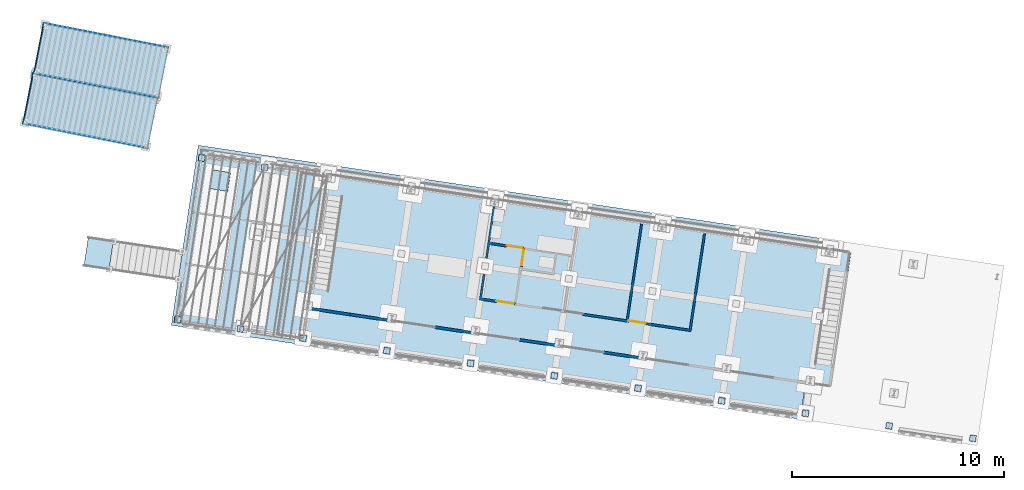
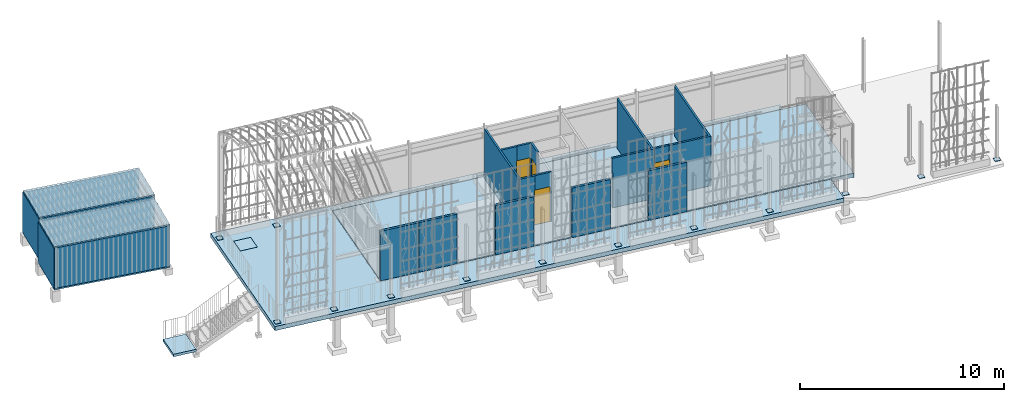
# One storey, part 134 of 142: 20 plates, 8 walls, 7 slabs, 4 doors, 7 openings, 5 elements without a shape of their own.
"""IFC4 building model written with IfcOpenShell, lengths in metres."""

from ifc_helpers import new_model, si_unit, direction, frame, origin_with_axes, place, context, subcontext, project, spatial, polyline, outline, extrude, material, layer, layer_set, constituent, constituent_set, element, fill, aggregate, save


model = new_model("IFC4")

# Units and contexts
model_context = context("Model", 3, precision=1e-05, world=origin_with_axes(), true_north=direction((0.0, 1.0)))
body_context = subcontext(model_context, "Body", "Model", "MODEL_VIEW")
ifc_project = project(units=[si_unit("LENGTHUNIT", "METRE"), si_unit("AREAUNIT", "SQUARE_METRE"), si_unit("VOLUMEUNIT", "CUBIC_METRE")], contexts=[model_context])

# Site, building, storey
site_placement = place(None, origin_with_axes())
site = spatial("IfcSite", under=ifc_project, at=site_placement, Name="Lares · Rua das Mercês · artigo 4771")
building_placement = place(site_placement, frame((15.0, 9.7, 14.65), z_axis=(0.0, 0.0, 1.0), x_axis=(0.989015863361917, -0.147809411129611, 0.0)))
building = spatial("IfcBuilding", under=site, at=building_placement, Name="Casa Sobreposta")
storey_placement = place(building_placement, origin_with_axes())
storey = spatial("IfcBuildingStorey", under=building, at=storey_placement, Name="00 · Habitação e estacionamento", Elevation=14.65)

# Assembly, slabs, opening, plate
assembly_1_placement = place(storey_placement, origin_with_axes())
assembly_1 = element("IfcElementAssembly", 1, at=assembly_1_placement, inside=storey, Name="Pódio · terraço, casa térrea e cisterna", ObjectType="CISTERN_PODIUM", PredefinedType="USERDEFINED")
ifc_material_1 = material(Name="Betão armado / Stahlbeton", Category="concrete")
slab_1_placement = place(assembly_1_placement, frame((0.0, 0.0, -0.25), z_axis=(0.0, 0.0, 1.0), x_axis=(1.0, 0.0, 0.0)))
slab_1 = element("IfcSlab", 2, at=slab_1_placement, material=ifc_material_1, Name="Pódio · laje da casa 250 mm", PredefinedType="FLOOR", context=body_context, shape_type="SweptSolid", body=[
    extrude(outline(polyline([(25.01, 0.0), (25.01, 6.4), (0.0, 6.4), (0.0, 0.0), (25.01, 0.0)])), origin_with_axes(), (0.0, 0.0, 1.0), 0.25),
])
slab_2_placement = place(assembly_1_placement, frame((0.0, 0.0, -0.29), z_axis=(0.0, 0.0, 1.0), x_axis=(1.0, 0.0, 0.0)))
slab_2 = element("IfcSlab", 3, at=slab_2_placement, material=ifc_material_1, Name="Pódio · terraço e faixa de proteção sul", PredefinedType="FLOOR", context=body_context, shape_type="SweptSolid", body=[
    extrude(outline(polyline([(-6.25, 6.85), (23.8, 6.85), (23.8, 6.4), (0.0, 6.4), (0.0, 0.0), (23.8, 0.0), (23.8, -1.75), (-6.25, -1.75), (-6.25, 6.85)])), origin_with_axes(), (0.0, 0.0, 1.0), 0.25),
])
opening_1_placement = place(slab_2_placement, frame((0.0, 0.0, -0.06), z_axis=(0.0, 0.0, 1.0), x_axis=(1.0, 0.0, 0.0)))
element("IfcOpeningElement", 4, at=opening_1_placement, cuts=slab_2, Name="Cisterna · abertura de inspeção", PredefinedType="OPENING", context=body_context, shape_type="SweptSolid", body=[
    extrude(outline(polyline([(-4.55, 4.9), (-4.55, 5.8), (-5.45, 5.8), (-5.45, 4.9), (-4.55, 4.9)])), origin_with_axes(), (0.0, 0.0, 1.0), 0.4),
])
ifc_material_2 = material(Name="Aço galvanizado / Stahl verzinkt", Category="steel")
plate_1_placement = place(assembly_1_placement, frame((0.0, 0.0, -0.085), z_axis=(0.0, 0.0, 1.0), x_axis=(1.0, 0.0, 0.0)))
plate_1 = element("IfcPlate", 5, at=plate_1_placement, material=ifc_material_2, Name="Cisterna · tampa estanque de inspeção", PredefinedType="SHEET", context=body_context, shape_type="SweptSolid", body=[
    extrude(outline(polyline([(-4.55, 4.9), (-4.55, 5.8), (-5.45, 5.8), (-5.45, 4.9), (-4.55, 4.9)])), origin_with_axes(), (0.0, 0.0, 1.0), 0.045),
])
aggregate(assembly_1, [slab_1, slab_2, plate_1])

# Stair, slab
stair_placement = place(storey_placement, origin_with_axes())
stair = element("IfcStair", 6, at=stair_placement, inside=storey, Name="Jardim · escada pela fachada poente", PredefinedType="STRAIGHT_RUN_STAIR")
slab_3_placement = place(stair_placement, frame((0.0, 0.0, -2.1), z_axis=(0.0, 0.0, 1.0), x_axis=(1.0, 0.0, 0.0)))
slab_3 = element("IfcSlab", 7, at=slab_3_placement, material=ifc_material_1, Name="Jardim · patamar poente", PredefinedType="LANDING", context=body_context, shape_type="SweptSolid", body=[
    extrude(outline(polyline([(-9.55, 0.4), (-9.55, 1.8), (-10.75, 1.8), (-10.75, 0.4), (-9.55, 0.4)])), origin_with_axes(), (0.0, 0.0, 1.0), 0.15),
])
aggregate(stair, [slab_3])

# Assembly, plates
assembly_2_placement = place(storey_placement, origin_with_axes())
assembly_2 = element("IfcElementAssembly", 8, at=assembly_2_placement, inside=storey, Name="Pérgola · prolongamento da estufa 6 m", ObjectType="PERGOLA_GREENHOUSE_EXTENSION", PredefinedType="USERDEFINED")
plate_2_placement = place(assembly_2_placement, frame((0.0, 0.0, -0.04), z_axis=(0.0, 0.0, 1.0), x_axis=(1.0, 0.0, 0.0)))
plate_2 = element("IfcPlate", 9, at=plate_2_placement, material=ifc_material_2, Name="Pérgola · chapa de ancoragem", PredefinedType="SHEET", context=body_context, shape_type="SweptSolid", body=[
    extrude(outline(polyline([(-5.85, -1.59), (-5.85, -1.29), (-6.15, -1.29), (-6.15, -1.59), (-5.85, -1.59)])), origin_with_axes(), (0.0, 0.0, 1.0), 0.025),
])
plate_3_placement = place(assembly_2_placement, frame((0.0, 0.0, -0.04), z_axis=(0.0, 0.0, 1.0), x_axis=(1.0, 0.0, 0.0)))
plate_3 = element("IfcPlate", 10, at=plate_3_placement, material=ifc_material_2, Name="Pérgola · chapa de ancoragem", PredefinedType="SHEET", context=body_context, shape_type="SweptSolid", body=[
    extrude(outline(polyline([(-5.85, 6.13), (-5.85, 6.43), (-6.15, 6.43), (-6.15, 6.13), (-5.85, 6.13)])), origin_with_axes(), (0.0, 0.0, 1.0), 0.025),
])
plate_4_placement = place(assembly_2_placement, frame((0.0, 0.0, -0.04), z_axis=(0.0, 0.0, 1.0), x_axis=(1.0, 0.0, 0.0)))
plate_4 = element("IfcPlate", 11, at=plate_4_placement, material=ifc_material_2, Name="Pérgola · chapa de ancoragem", PredefinedType="SHEET", context=body_context, shape_type="SweptSolid", body=[
    extrude(outline(polyline([(-2.85, -1.59), (-2.85, -1.29), (-3.15, -1.29), (-3.15, -1.59), (-2.85, -1.59)])), origin_with_axes(), (0.0, 0.0, 1.0), 0.025),
])
plate_5_placement = place(assembly_2_placement, frame((0.0, 0.0, -0.04), z_axis=(0.0, 0.0, 1.0), x_axis=(1.0, 0.0, 0.0)))
plate_5 = element("IfcPlate", 12, at=plate_5_placement, material=ifc_material_2, Name="Pérgola · chapa de ancoragem", PredefinedType="SHEET", context=body_context, shape_type="SweptSolid", body=[
    extrude(outline(polyline([(-2.85, 6.13), (-2.85, 6.43), (-3.15, 6.43), (-3.15, 6.13), (-2.85, 6.13)])), origin_with_axes(), (0.0, 0.0, 1.0), 0.025),
])
aggregate(assembly_2, [plate_2, plate_3, plate_4, plate_5])

# Plates
plate_6_placement = place(storey_placement, frame((0.0, 0.0, -0.04), z_axis=(0.0, 0.0, 1.0), x_axis=(1.0, 0.0, 0.0)))
element("IfcPlate", 13, at=plate_6_placement, inside=storey, material=ifc_material_2, Name="Projeção estufa · chapa de ancoragem", PredefinedType="SHEET", context=body_context, shape_type="SweptSolid", body=[
    extrude(outline(polyline([(0.15, -1.59), (0.15, -1.29), (-0.15, -1.29), (-0.15, -1.59), (0.15, -1.59)])), origin_with_axes(), (0.0, 0.0, 1.0), 0.025),
])
plate_7_placement = place(storey_placement, frame((0.0, 0.0, -0.04), z_axis=(0.0, 0.0, 1.0), x_axis=(1.0, 0.0, 0.0)))
element("IfcPlate", 14, at=plate_7_placement, inside=storey, material=ifc_material_2, Name="Projeção estufa · chapa de ancoragem", PredefinedType="SHEET", context=body_context, shape_type="SweptSolid", body=[
    extrude(outline(polyline([(4.15, -1.59), (4.15, -1.29), (3.85, -1.29), (3.85, -1.59), (4.15, -1.59)])), origin_with_axes(), (0.0, 0.0, 1.0), 0.025),
])
plate_8_placement = place(storey_placement, frame((0.0, 0.0, -0.04), z_axis=(0.0, 0.0, 1.0), x_axis=(1.0, 0.0, 0.0)))
element("IfcPlate", 15, at=plate_8_placement, inside=storey, material=ifc_material_2, Name="Projeção estufa · chapa de ancoragem", PredefinedType="SHEET", context=body_context, shape_type="SweptSolid", body=[
    extrude(outline(polyline([(8.15, -1.59), (8.15, -1.29), (7.85, -1.29), (7.85, -1.59), (8.15, -1.59)])), origin_with_axes(), (0.0, 0.0, 1.0), 0.025),
])
plate_9_placement = place(storey_placement, frame((0.0, 0.0, -0.04), z_axis=(0.0, 0.0, 1.0), x_axis=(1.0, 0.0, 0.0)))
element("IfcPlate", 16, at=plate_9_placement, inside=storey, material=ifc_material_2, Name="Projeção estufa · chapa de ancoragem", PredefinedType="SHEET", context=body_context, shape_type="SweptSolid", body=[
    extrude(outline(polyline([(12.15, -1.59), (12.15, -1.29), (11.85, -1.29), (11.85, -1.59), (12.15, -1.59)])), origin_with_axes(), (0.0, 0.0, 1.0), 0.025),
])
plate_10_placement = place(storey_placement, frame((0.0, 0.0, -0.04), z_axis=(0.0, 0.0, 1.0), x_axis=(1.0, 0.0, 0.0)))
element("IfcPlate", 17, at=plate_10_placement, inside=storey, material=ifc_material_2, Name="Projeção estufa · chapa de ancoragem", PredefinedType="SHEET", context=body_context, shape_type="SweptSolid", body=[
    extrude(outline(polyline([(16.15, -1.59), (16.15, -1.29), (15.85, -1.29), (15.85, -1.59), (16.15, -1.59)])), origin_with_axes(), (0.0, 0.0, 1.0), 0.025),
])
plate_11_placement = place(storey_placement, frame((0.0, 0.0, -0.04), z_axis=(0.0, 0.0, 1.0), x_axis=(1.0, 0.0, 0.0)))
element("IfcPlate", 18, at=plate_11_placement, inside=storey, material=ifc_material_2, Name="Projeção estufa · chapa de ancoragem", PredefinedType="SHEET", context=body_context, shape_type="SweptSolid", body=[
    extrude(outline(polyline([(20.15, -1.59), (20.15, -1.29), (19.85, -1.29), (19.85, -1.59), (20.15, -1.59)])), origin_with_axes(), (0.0, 0.0, 1.0), 0.025),
])
plate_12_placement = place(storey_placement, frame((0.0, 0.0, -0.04), z_axis=(0.0, 0.0, 1.0), x_axis=(1.0, 0.0, 0.0)))
element("IfcPlate", 19, at=plate_12_placement, inside=storey, material=ifc_material_2, Name="Projeção estufa · chapa de ancoragem", PredefinedType="SHEET", context=body_context, shape_type="SweptSolid", body=[
    extrude(outline(polyline([(24.15, -1.59), (24.15, -1.29), (23.85, -1.29), (23.85, -1.59), (24.15, -1.59)])), origin_with_axes(), (0.0, 0.0, 1.0), 0.025),
])
plate_13_placement = place(storey_placement, frame((0.0, 0.0, -0.04), z_axis=(0.0, 0.0, 1.0), x_axis=(1.0, 0.0, 0.0)))
element("IfcPlate", 20, at=plate_13_placement, inside=storey, material=ifc_material_2, Name="Projeção estufa · chapa de ancoragem", PredefinedType="SHEET", context=body_context, shape_type="SweptSolid", body=[
    extrude(outline(polyline([(28.15, -1.59), (28.15, -1.29), (27.85, -1.29), (27.85, -1.59), (28.15, -1.59)])), origin_with_axes(), (0.0, 0.0, 1.0), 0.025),
])
plate_14_placement = place(storey_placement, frame((0.0, 0.0, -0.04), z_axis=(0.0, 0.0, 1.0), x_axis=(1.0, 0.0, 0.0)))
element("IfcPlate", 21, at=plate_14_placement, inside=storey, material=ifc_material_2, Name="Projeção estufa · chapa de ancoragem", PredefinedType="SHEET", context=body_context, shape_type="SweptSolid", body=[
    extrude(outline(polyline([(32.15, -1.59), (32.15, -1.29), (31.85, -1.29), (31.85, -1.59), (32.15, -1.59)])), origin_with_axes(), (0.0, 0.0, 1.0), 0.025),
])

# Assembly, slabs, plates
assembly_3_placement = place(storey_placement, frame((-14.4335953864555, 9.04888612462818, 0.0), z_axis=(0.0, 0.0, 1.0), x_axis=(0.999032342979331, -0.0439815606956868, 0.0)))
assembly_3 = element("IfcElementAssembly", 22, at=assembly_3_placement, inside=storey, Name="Contentor existente 1 · 6 m", ObjectType="EXISTING_SHIPPING_CONTAINER", PredefinedType="USERDEFINED")
ifc_material_3 = material(Name="Contentor · pintura 1", Category="steel")
slab_4_placement = place(assembly_3_placement, frame((0.0, 0.0, -1.01314181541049), z_axis=(0.0, 0.0, 1.0), x_axis=(1.0, 0.0, 0.0)))
slab_4 = element("IfcSlab", 23, at=slab_4_placement, material=ifc_material_3, Name="Contentor · piso ou teto", PredefinedType="FLOOR", context=body_context, shape_type="SweptSolid", body=[
    extrude(outline(polyline([(6.0, 0.0), (6.0, 2.44), (0.0, 2.44), (0.0, 0.0), (6.0, 0.0)])), origin_with_axes(), (0.0, 0.0, 1.0), 0.08),
])
slab_5_placement = place(assembly_3_placement, frame((0.0, 0.0, 1.49685818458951), z_axis=(0.0, 0.0, 1.0), x_axis=(1.0, 0.0, 0.0)))
slab_5 = element("IfcSlab", 24, at=slab_5_placement, material=ifc_material_3, Name="Contentor · piso ou teto", PredefinedType="FLOOR", context=body_context, shape_type="SweptSolid", body=[
    extrude(outline(polyline([(6.0, 0.0), (6.0, 2.44), (0.0, 2.44), (0.0, 0.0), (6.0, 0.0)])), origin_with_axes(), (0.0, 0.0, 1.0), 0.08),
])
plate_15_placement = place(assembly_3_placement, frame((0.0, 0.0, -0.933141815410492), z_axis=(0.0, 0.0, 1.0), x_axis=(1.0, 0.0, 0.0)))
plate_15 = element("IfcPlate", 25, at=plate_15_placement, material=ifc_material_3, Name="Contentor · chapa lateral", context=body_context, shape_type="SweptSolid", body=[
    extrude(outline(polyline([(6.0, 0.0325), (6.0, 0.0075), (0.0, 0.0075), (0.0, 0.0325), (6.0, 0.0325)])), origin_with_axes(), (0.0, 0.0, 1.0), 2.43),
])
plate_16_placement = place(assembly_3_placement, frame((0.0, 0.0, -0.933141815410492), z_axis=(0.0, 0.0, 1.0), x_axis=(1.0, 0.0, 0.0)))
plate_16 = element("IfcPlate", 26, at=plate_16_placement, material=ifc_material_3, Name="Contentor · chapa lateral", context=body_context, shape_type="SweptSolid", body=[
    extrude(outline(polyline([(6.0, 2.4325), (6.0, 2.4075), (0.0, 2.4075), (0.0, 2.4325), (6.0, 2.4325)])), origin_with_axes(), (0.0, 0.0, 1.0), 2.43),
])
plate_17_placement = place(assembly_3_placement, frame((0.0, 0.0, -0.933141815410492), z_axis=(0.0, 0.0, 1.0), x_axis=(1.0, 0.0, 0.0)))
plate_17 = element("IfcPlate", 27, at=plate_17_placement, material=ifc_material_3, Name="Contentor · chapa de fundo", context=body_context, shape_type="SweptSolid", body=[
    extrude(outline(polyline([(-0.025, 2.44), (0.025, 2.44), (0.025, 0.0), (-0.025, 0.0), (-0.025, 2.44)])), origin_with_axes(), (0.0, 0.0, 1.0), 2.43),
])
aggregate(assembly_3, [slab_4, slab_5, plate_15, plate_16, plate_17])

assembly_4_placement = place(storey_placement, frame((-14.5932944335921, 6.63122214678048, 0.0), z_axis=(0.0, 0.0, 1.0), x_axis=(0.998832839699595, -0.0483007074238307, 0.0)))
assembly_4 = element("IfcElementAssembly", 28, at=assembly_4_placement, inside=storey, Name="Contentor existente 2 · 6 m", ObjectType="EXISTING_SHIPPING_CONTAINER", PredefinedType="USERDEFINED")
ifc_material_4 = material(Name="Contentor · pintura 2", Category="steel")
slab_6_placement = place(assembly_4_placement, frame((0.0, 0.0, -1.16875169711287), z_axis=(0.0, 0.0, 1.0), x_axis=(1.0, 0.0, 0.0)))
slab_6 = element("IfcSlab", 29, at=slab_6_placement, material=ifc_material_4, Name="Contentor · piso ou teto", PredefinedType="FLOOR", context=body_context, shape_type="SweptSolid", body=[
    extrude(outline(polyline([(6.0, 0.0), (6.0, 2.44), (0.0, 2.44), (0.0, 0.0), (6.0, 0.0)])), origin_with_axes(), (0.0, 0.0, 1.0), 0.08),
])
slab_7_placement = place(assembly_4_placement, frame((0.0, 0.0, 1.34124830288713), z_axis=(0.0, 0.0, 1.0), x_axis=(1.0, 0.0, 0.0)))
slab_7 = element("IfcSlab", 30, at=slab_7_placement, material=ifc_material_4, Name="Contentor · piso ou teto", PredefinedType="FLOOR", context=body_context, shape_type="SweptSolid", body=[
    extrude(outline(polyline([(6.0, 0.0), (6.0, 2.44), (0.0, 2.44), (0.0, 0.0), (6.0, 0.0)])), origin_with_axes(), (0.0, 0.0, 1.0), 0.08),
])
plate_18_placement = place(assembly_4_placement, frame((0.0, 0.0, -1.08875169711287), z_axis=(0.0, 0.0, 1.0), x_axis=(1.0, 0.0, 0.0)))
plate_18 = element("IfcPlate", 31, at=plate_18_placement, material=ifc_material_4, Name="Contentor · chapa lateral", context=body_context, shape_type="SweptSolid", body=[
    extrude(outline(polyline([(6.0, 0.0325), (6.0, 0.0075), (0.0, 0.0075), (0.0, 0.0325), (6.0, 0.0325)])), origin_with_axes(), (0.0, 0.0, 1.0), 2.43),
])
plate_19_placement = place(assembly_4_placement, frame((0.0, 0.0, -1.08875169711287), z_axis=(0.0, 0.0, 1.0), x_axis=(1.0, 0.0, 0.0)))
plate_19 = element("IfcPlate", 32, at=plate_19_placement, material=ifc_material_4, Name="Contentor · chapa lateral", context=body_context, shape_type="SweptSolid", body=[
    extrude(outline(polyline([(6.0, 2.4325), (6.0, 2.4075), (0.0, 2.4075), (0.0, 2.4325), (6.0, 2.4325)])), origin_with_axes(), (0.0, 0.0, 1.0), 2.43),
])
plate_20_placement = place(assembly_4_placement, frame((0.0, 0.0, -1.08875169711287), z_axis=(0.0, 0.0, 1.0), x_axis=(1.0, 0.0, 0.0)))
plate_20 = element("IfcPlate", 33, at=plate_20_placement, material=ifc_material_4, Name="Contentor · chapa de fundo", context=body_context, shape_type="SweptSolid", body=[
    extrude(outline(polyline([(-0.025, 2.44), (0.025, 2.44), (0.025, 0.0), (-0.025, 0.0), (-0.025, 2.44)])), origin_with_axes(), (0.0, 0.0, 1.0), 2.43),
])
aggregate(assembly_4, [slab_6, slab_7, plate_18, plate_19, plate_20])

# Wall, openings, doors
ifc_material_5 = material(Name="OSB", Category="wood")
ifc_constituent_1 = constituent(ifc_material_5, Name="osb")
ifc_material_6 = material(Name="Lã mineral / Mineralwolle 2", Category="mineral wool")
ifc_constituent_2 = constituent(ifc_material_6, Name="wool")
ifc_constituent_set_1 = constituent_set(constituents=[ifc_constituent_1, ifc_constituent_2], Name="OSB22 / lã mineral / OSB22")
wall_1_placement = place(storey_placement, origin_with_axes())
wall_1 = element("IfcWall", 34, at=wall_1_placement, inside=storey, material=ifc_constituent_set_1, Name="Divisória 1 · OSB 22 mm nas duas faces", context=body_context, shape_type="SweptSolid", body=[
    extrude(outline(polyline([(8.05999999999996, 6.27299999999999), (8.05999999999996, 4.35299999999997), (8.80454037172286, 4.35299999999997), (8.80454322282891, 4.37255471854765), (9.67462900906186, 4.37242785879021), (9.67461809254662, 4.29755537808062), (9.74955631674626, 4.29756574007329), (9.74967661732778, 3.42754853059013), (9.63967661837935, 3.4275333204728), (9.63956117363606, 4.26243297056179), (8.90999999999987, 4.26253934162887), (8.90999999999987, 4.24299999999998), (8.05999999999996, 4.24299999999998), (8.05999999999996, 1.68999999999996), (8.70456930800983, 1.68999999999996), (8.70457262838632, 1.71008556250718), (9.6746647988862, 1.70992519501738), (9.67464661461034, 1.59992519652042), (8.80999999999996, 1.60006813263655), (8.80999999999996, 1.57999999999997), (7.96000000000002, 1.57999999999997), (7.96000000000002, 6.27299999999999), (8.05999999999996, 6.27299999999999)]), holes=[polyline([(7.98200000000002, 1.60199999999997), (8.78799999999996, 1.60199999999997), (8.78799999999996, 1.62207176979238), (9.65265025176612, 1.62192883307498), (9.65266116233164, 1.68792883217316), (8.72656899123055, 1.68808192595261), (8.72656567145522, 1.66799999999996), (8.03799999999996, 1.66799999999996), (8.03799999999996, 4.26499999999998), (8.88799999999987, 4.26499999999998), (8.88799999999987, 4.28454254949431), (9.65261617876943, 4.28443106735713), (9.65262580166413, 4.35043106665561), (8.8265400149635, 4.35055151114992), (8.82653716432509, 4.33099999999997), (8.03799999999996, 4.33099999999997), (8.03799999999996, 6.25099999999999), (7.98200000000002, 6.25099999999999), (7.98200000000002, 1.60199999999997)]), polyline([(9.66167357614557, 3.44953636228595), (9.72767357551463, 3.44954548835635), (9.72755935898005, 4.27556269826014), (9.661559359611, 4.27555357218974), (9.66167357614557, 3.44953636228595)])]), origin_with_axes(), (0.0, 0.0, 1.0), 2.968),
    extrude(outline(polyline([(7.98200000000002, 6.25099999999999), (8.03799999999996, 6.25099999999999), (8.03799999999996, 4.33099999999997), (8.82653716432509, 4.33099999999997), (8.8265400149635, 4.35055151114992), (9.65262580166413, 4.35043106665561), (9.65261617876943, 4.28443106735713), (8.88799999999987, 4.28454254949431), (8.88799999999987, 4.26499999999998), (8.03799999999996, 4.26499999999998), (8.03799999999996, 1.66799999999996), (8.72656567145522, 1.66799999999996), (8.72656899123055, 1.68808192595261), (9.65266116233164, 1.68792883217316), (9.65265025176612, 1.62192883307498), (8.78799999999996, 1.62207176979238), (8.78799999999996, 1.60199999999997), (7.98200000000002, 1.60199999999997), (7.98200000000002, 6.25099999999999)])), origin_with_axes(), (0.0, 0.0, 1.0), 2.968),
    extrude(outline(polyline([(9.661559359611, 4.27555357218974), (9.72755935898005, 4.27556269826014), (9.72767357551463, 3.44954548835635), (9.66167357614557, 3.44953636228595), (9.661559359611, 4.27555357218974)])), origin_with_axes(), (0.0, 0.0, 1.0), 2.968),
])
opening_2_placement = place(wall_1_placement, origin_with_axes())
opening_2 = element("IfcOpeningElement", 35, at=opening_2_placement, cuts=wall_1, PredefinedType="OPENING", context=body_context, shape_type="SweptSolid", body=[
    extrude(outline(polyline([(8.87451187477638, 4.15754451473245), (8.87455853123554, 4.47754451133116), (9.60464431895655, 4.4774380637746), (9.60459766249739, 4.15743806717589), (8.87451187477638, 4.15754451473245)])), origin_with_axes(), (0.0, 0.0, 1.0), 2.1),
])
opening_3_placement = place(wall_1_placement, origin_with_axes())
opening_3 = element("IfcOpeningElement", 36, at=opening_3_placement, cuts=wall_1, PredefinedType="OPENING", context=body_context, shape_type="SweptSolid", body=[
    extrude(outline(polyline([(8.77453708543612, 1.49507399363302), (8.77458998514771, 1.81507398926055), (9.60468215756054, 1.81493676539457), (9.60462925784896, 1.49493676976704), (8.77453708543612, 1.49507399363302)])), origin_with_axes(), (0.0, 0.0, 1.0), 2.1),
])
opening_4_placement = place(wall_1_placement, origin_with_axes())
opening_4 = element("IfcOpeningElement", 37, at=opening_4_placement, cuts=wall_1, PredefinedType="OPENING", context=body_context, shape_type="SweptSolid", body=[
    extrude(outline(polyline([(9.85466693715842, 3.49756304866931), (9.53466694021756, 3.49751880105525), (9.5345659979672, 4.22753601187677), (9.85456599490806, 4.22758025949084), (9.85466693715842, 3.49756304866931)])), origin_with_axes(), (0.0, 0.0, 1.0), 2.1),
])
door_1_placement = place(storey_placement, origin_with_axes())
door_1 = element("IfcDoor", 38, at=door_1_placement, inside=storey, material=ifc_material_5, Name="Porta interior 3", OperationType="SINGLE_SWING_LEFT", OverallHeight=2.1, OverallWidth=0.730085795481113, PredefinedType="DOOR", context=body_context, shape_type="SweptSolid", body=[
    extrude(outline(polyline([(8.87453265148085, 4.30004451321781), (8.87453775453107, 4.3350445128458), (9.60462354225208, 4.33493806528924), (9.60461843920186, 4.29993806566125), (8.87453265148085, 4.30004451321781)])), origin_with_axes(), (0.0, 0.0, 1.0), 2.1),
])
fill(opening_2, door_1)
door_2_placement = place(storey_placement, origin_with_axes())
door_2 = element("IfcDoor", 39, at=door_2_placement, inside=storey, material=ifc_material_5, Name="Porta interior 4", OperationType="SINGLE_SWING_LEFT", OverallHeight=2.1, OverallWidth=0.830092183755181, PredefinedType="DOOR", context=body_context, shape_type="SweptSolid", body=[
    extrude(outline(polyline([(8.77456064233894, 1.6375739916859), (8.7745664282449, 1.67257399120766), (9.60465860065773, 1.67243676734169), (9.60465281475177, 1.63743676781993), (8.77456064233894, 1.6375739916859)])), origin_with_axes(), (0.0, 0.0, 1.0), 2.1),
])
fill(opening_3, door_2)
door_3_placement = place(storey_placement, origin_with_axes())
door_3 = element("IfcDoor", 40, at=door_3_placement, inside=storey, material=ifc_material_5, Name="Porta interior 6", OperationType="SINGLE_SWING_LEFT", OverallHeight=2.1, OverallWidth=0.730017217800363, PredefinedType="DOOR", context=body_context, shape_type="SweptSolid", body=[
    extrude(outline(polyline([(9.71216693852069, 3.49754334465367), (9.67716693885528, 3.49753850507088), (9.67706599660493, 4.22755571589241), (9.71206599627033, 4.2275605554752), (9.71216693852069, 3.49754334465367)])), origin_with_axes(), (0.0, 0.0, 1.0), 2.1),
])
fill(opening_4, door_3)

# Wall, openings, door
ifc_constituent_3 = constituent(ifc_material_5, Name="osb")
ifc_constituent_4 = constituent(ifc_material_6, Name="wool")
ifc_constituent_set_2 = constituent_set(constituents=[ifc_constituent_3, ifc_constituent_4], Name="OSB22 / lã mineral / OSB22")
wall_2_placement = place(storey_placement, origin_with_axes())
wall_2 = element("IfcWall", 41, at=wall_2_placement, inside=storey, material=ifc_constituent_set_2, Name="Divisória 3 · OSB 22 mm nas duas faces", context=body_context, shape_type="SweptSolid", body=[
    extrude(outline(polyline([(15.07, 6.27299999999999), (15.07, 1.70993390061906), (15.9846265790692, 1.71008560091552), (15.9846448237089, 1.60008560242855), (15.1199999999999, 1.59994219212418), (15.1199999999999, 1.57999999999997), (12.8699999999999, 1.57999999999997), (12.8699999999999, 1.68999999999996), (14.97, 1.68999999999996), (14.97, 6.27299999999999), (15.07, 6.27299999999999)]), holes=[polyline([(14.992, 1.66799999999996), (12.8919999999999, 1.66799999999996), (12.8919999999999, 1.60199999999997), (15.0979999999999, 1.60199999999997), (15.0979999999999, 1.6219385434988), (15.9626411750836, 1.62208195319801), (15.9626302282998, 1.68808195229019), (15.048, 1.68793025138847), (15.048, 6.25099999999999), (14.992, 6.25099999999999), (14.992, 1.66799999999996)])]), origin_with_axes(), (0.0, 0.0, 1.0), 2.968),
    extrude(outline(polyline([(14.992, 6.25099999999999), (15.048, 6.25099999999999), (15.048, 1.68793025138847), (15.9626302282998, 1.68808195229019), (15.9626411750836, 1.62208195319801), (15.0979999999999, 1.6219385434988), (15.0979999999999, 1.60199999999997), (12.8919999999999, 1.60199999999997), (12.8919999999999, 1.66799999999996), (14.992, 1.66799999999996), (14.992, 6.25099999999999)])), origin_with_axes(), (0.0, 0.0, 1.0), 2.968),
])
opening_5_placement = place(wall_2_placement, origin_with_axes())
opening_5 = element("IfcOpeningElement", 42, at=opening_5_placement, cuts=wall_2, PredefinedType="OPENING", context=body_context, shape_type="SweptSolid", body=[
    extrude(outline(polyline([(15.9146091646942, 1.81507398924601), (15.9146622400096, 1.49507399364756), (15.0845696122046, 1.49493631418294), (15.0845165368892, 1.8149363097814), (15.9146091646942, 1.81507398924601)])), origin_with_axes(), (0.0, 0.0, 1.0), 2.1),
])
opening_6_placement = place(wall_2_placement, origin_with_axes())
element("IfcOpeningElement", 43, at=opening_6_placement, cuts=wall_2, PredefinedType="OPENING", context=body_context, shape_type="SweptSolid", body=[
    extrude(outline(polyline([(12.9045964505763, 1.81507398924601), (12.9046495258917, 1.49507399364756), (12.0745568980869, 1.49493631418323), (12.0745038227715, 1.81493630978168), (12.9045964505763, 1.81507398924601)])), origin_with_axes(), (0.0, 0.0, 1.0), 2.1),
])
door_4_placement = place(storey_placement, origin_with_axes())
door_4 = element("IfcDoor", 44, at=door_4_placement, inside=storey, material=ifc_material_5, Name="Porta interior 1", OperationType="SINGLE_SWING_LEFT", OverallHeight=2.1, OverallWidth=0.830092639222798, PredefinedType="DOOR", context=body_context, shape_type="SweptSolid", body=[
    extrude(outline(polyline([(15.9146327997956, 1.67257399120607), (15.9146386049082, 1.63757399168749), (15.0845459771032, 1.63743631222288), (15.0845401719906, 1.67243631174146), (15.9146327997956, 1.67257399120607)])), origin_with_axes(), (0.0, 0.0, 1.0), 2.1),
])
fill(opening_5, door_4)

# Wall, opening
ifc_constituent_5 = constituent(ifc_material_5, Name="osb")
ifc_constituent_6 = constituent(ifc_material_6, Name="wool")
ifc_constituent_set_3 = constituent_set(constituents=[ifc_constituent_5, ifc_constituent_6], Name="OSB22 / lã mineral / OSB22")
wall_3_placement = place(storey_placement, origin_with_axes())
wall_3 = element("IfcWall", 45, at=wall_3_placement, inside=storey, material=ifc_constituent_set_3, Name="Divisória 4 · OSB 22 mm nas duas faces", context=body_context, shape_type="SweptSolid", body=[
    extrude(outline(polyline([(17.98, 6.21236749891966), (18.0799999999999, 6.29570083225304), (18.0799999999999, 1.57999999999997), (15.8799999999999, 1.57999999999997), (15.8799999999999, 1.68999999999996), (17.98, 1.68999999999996), (17.98, 6.21236749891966)]), holes=[polyline([(15.9019999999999, 1.66799999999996), (15.9019999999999, 1.60199999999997), (18.0579999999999, 1.60199999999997), (18.0579999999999, 6.24872991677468), (18.002, 6.202063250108), (18.002, 1.66799999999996), (15.9019999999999, 1.66799999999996)])]), origin_with_axes(), (0.0, 0.0, 1.0), 2.968),
    extrude(outline(polyline([(18.002, 1.66799999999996), (18.002, 6.202063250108), (18.0579999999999, 6.24872991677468), (18.0579999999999, 1.60199999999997), (15.9019999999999, 1.60199999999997), (15.9019999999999, 1.66799999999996), (18.002, 1.66799999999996)])), origin_with_axes(), (0.0, 0.0, 1.0), 2.968),
])
opening_7_placement = place(wall_3_placement, origin_with_axes())
element("IfcOpeningElement", 46, at=opening_7_placement, cuts=wall_3, PredefinedType="OPENING", context=body_context, shape_type="SweptSolid", body=[
    extrude(outline(polyline([(15.9146091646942, 1.81507398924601), (15.9146622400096, 1.49507399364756), (15.0845696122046, 1.49493631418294), (15.0845165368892, 1.8149363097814), (15.9146091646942, 1.81507398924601)])), origin_with_axes(), (0.0, 0.0, 1.0), 2.1),
])

# Walls
ifc_material_7 = material(Name="Aço pintado / Stahl lackiert", Category="steel")
ifc_layer_1 = layer(ifc_material_7, 0.005, Name="steel")
ifc_layer_2 = layer(ifc_material_6, 0.12, Name="wool")
ifc_layer_3 = layer(ifc_material_7, 0.00516, Name="steel")
ifc_layer_set_1 = layer_set([ifc_layer_1, ifc_layer_2, ifc_layer_3], Name="Casa DFL sandwich · 130.16 mm")
wall_4_placement = place(storey_placement, origin_with_axes())
element("IfcWall", 47, at=wall_4_placement, inside=storey, material=ifc_layer_set_1, Name="Painel opaco sul 0", context=body_context, shape_type="SweptSolid", body=[
    extrude(outline(polyline([(2.02133333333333, 0.06508), (2.02133333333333, -0.06508), (0.0, -0.06508), (0.0, 0.06508), (2.02133333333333, 0.06508)])), origin_with_axes(), (0.0, 0.0, 1.0), 2.968),
])
ifc_layer_4 = layer(ifc_material_7, 0.005, Name="steel")
ifc_layer_5 = layer(ifc_material_6, 0.12, Name="wool")
ifc_layer_6 = layer(ifc_material_7, 0.00516, Name="steel")
ifc_layer_set_2 = layer_set([ifc_layer_4, ifc_layer_5, ifc_layer_6], Name="Casa DFL sandwich · 130.16 mm")
wall_5_placement = place(storey_placement, origin_with_axes())
element("IfcWall", 48, at=wall_5_placement, inside=storey, material=ifc_layer_set_2, Name="Painel opaco sul 1", context=body_context, shape_type="SweptSolid", body=[
    extrude(outline(polyline([(4.04266666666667, 0.06508), (4.04266666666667, -0.06508), (2.02133333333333, -0.06508), (2.02133333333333, 0.06508), (4.04266666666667, 0.06508)])), origin_with_axes(), (0.0, 0.0, 1.0), 2.968),
])
ifc_layer_7 = layer(ifc_material_7, 0.005, Name="steel")
ifc_layer_8 = layer(ifc_material_6, 0.12, Name="wool")
ifc_layer_9 = layer(ifc_material_7, 0.00516, Name="steel")
ifc_layer_set_3 = layer_set([ifc_layer_7, ifc_layer_8, ifc_layer_9], Name="Casa DFL sandwich · 130.16 mm")
wall_6_placement = place(storey_placement, origin_with_axes())
element("IfcWall", 49, at=wall_6_placement, inside=storey, material=ifc_layer_set_3, Name="Painel opaco sul 3", context=body_context, shape_type="SweptSolid", body=[
    extrude(outline(polyline([(8.08533333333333, 0.06508), (8.08533333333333, -0.06508), (6.064, -0.06508), (6.064, 0.06508), (8.08533333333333, 0.06508)])), origin_with_axes(), (0.0, 0.0, 1.0), 2.968),
])
ifc_layer_10 = layer(ifc_material_7, 0.005, Name="steel")
ifc_layer_11 = layer(ifc_material_6, 0.12, Name="wool")
ifc_layer_12 = layer(ifc_material_7, 0.00516, Name="steel")
ifc_layer_set_4 = layer_set([ifc_layer_10, ifc_layer_11, ifc_layer_12], Name="Casa DFL sandwich · 130.16 mm")
wall_7_placement = place(storey_placement, origin_with_axes())
element("IfcWall", 50, at=wall_7_placement, inside=storey, material=ifc_layer_set_4, Name="Painel opaco sul 5", context=body_context, shape_type="SweptSolid", body=[
    extrude(outline(polyline([(12.128, 0.06508), (12.128, -0.06508), (10.1066666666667, -0.06508), (10.1066666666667, 0.06508), (12.128, 0.06508)])), origin_with_axes(), (0.0, 0.0, 1.0), 2.968),
])
ifc_layer_13 = layer(ifc_material_7, 0.005, Name="steel")
ifc_layer_14 = layer(ifc_material_6, 0.12, Name="wool")
ifc_layer_15 = layer(ifc_material_7, 0.00516, Name="steel")
ifc_layer_set_5 = layer_set([ifc_layer_13, ifc_layer_14, ifc_layer_15], Name="Casa DFL sandwich · 130.16 mm")
wall_8_placement = place(storey_placement, origin_with_axes())
element("IfcWall", 51, at=wall_8_placement, inside=storey, material=ifc_layer_set_5, Name="Painel opaco sul 7", context=body_context, shape_type="SweptSolid", body=[
    extrude(outline(polyline([(16.1706666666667, 0.06508), (16.1706666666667, -0.06508), (14.1493333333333, -0.06508), (14.1493333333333, 0.06508), (16.1706666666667, 0.06508)])), origin_with_axes(), (0.0, 0.0, 1.0), 2.968),
])

save(model, "model.ifc")
